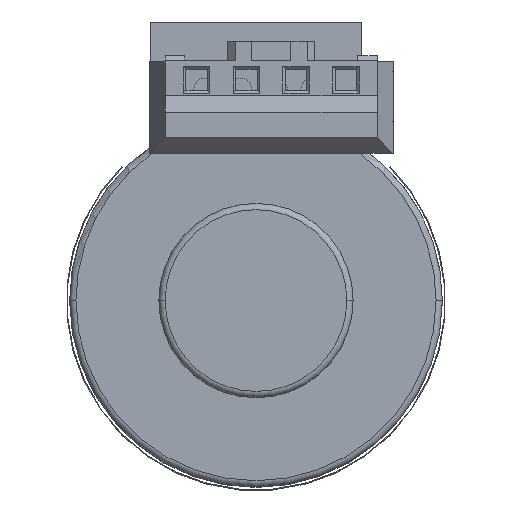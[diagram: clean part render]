
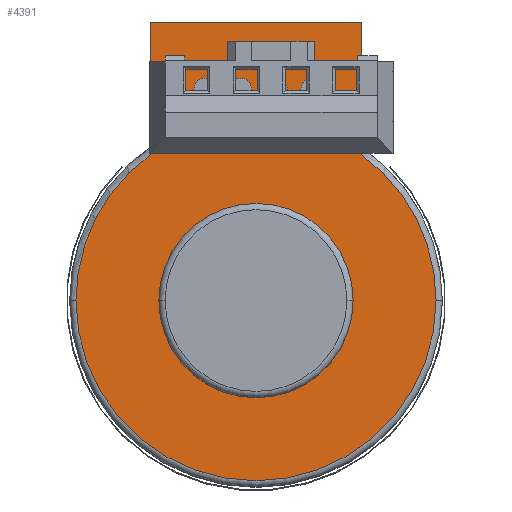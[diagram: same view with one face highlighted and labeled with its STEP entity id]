
A CAD part, top view. The second image highlights one B-rep face of the part: STEP entity #4391.
In plain terms, the highlighted planar face has unit normal (0, 0, 1).
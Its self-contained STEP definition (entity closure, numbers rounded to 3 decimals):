
#41 = CARTESIAN_POINT ( 'NONE',  ( -2.056, 8.438, 11. ) ) ;
#120 = DIRECTION ( 'NONE',  ( 1., 0., 0. ) ) ;
#213 = EDGE_CURVE ( 'NONE', #2931, #7906, #1782, .T. ) ;
#347 = VECTOR ( 'NONE', #120, 1000. ) ;
#384 = VERTEX_POINT ( 'NONE', #7729 ) ;
#397 = EDGE_CURVE ( 'NONE', #7710, #2724, #2043, .T. ) ;
#454 = EDGE_CURVE ( 'NONE', #5559, #2868, #7116, .T. ) ;
#523 = FACE_BOUND ( 'NONE', #995, .T. ) ;
#625 = CIRCLE ( 'NONE', #1020, 7.246 ) ;
#640 = CARTESIAN_POINT ( 'NONE',  ( -4.26, 5.862, 11. ) ) ;
#644 = FACE_BOUND ( 'NONE', #5646, .T. ) ;
#672 = DIRECTION ( 'NONE',  ( 0., 1., 0. ) ) ;
#683 = AXIS2_PLACEMENT_3D ( 'NONE', #6950, #2433, #8229 ) ;
#769 = EDGE_CURVE ( 'NONE', #4535, #384, #7121, .T. ) ;
#850 = CIRCLE ( 'NONE', #5393, 0.445 ) ;
#881 = DIRECTION ( 'NONE',  ( 1., 0., 0. ) ) ;
#966 = DIRECTION ( 'NONE',  ( 0., 0., 1. ) ) ;
#995 = EDGE_LOOP ( 'NONE', ( #2473, #3205 ) ) ;
#1020 = AXIS2_PLACEMENT_3D ( 'NONE', #6816, #7437, #4119 ) ;
#1030 = ORIENTED_EDGE ( 'NONE', *, *, #4253, .F. ) ;
#1062 = FACE_BOUND ( 'NONE', #2741, .T. ) ;
#1121 = AXIS2_PLACEMENT_3D ( 'NONE', #4924, #7476, #5681 ) ;
#1138 = EDGE_CURVE ( 'NONE', #384, #4535, #850, .T. ) ;
#1157 = CARTESIAN_POINT ( 'NONE',  ( 2.249, 8.438, 11. ) ) ;
#1162 = EDGE_LOOP ( 'NONE', ( #7963, #8015, #5160, #4407, #7819, #8256 ) ) ;
#1233 = FACE_OUTER_BOUND ( 'NONE', #1162, .T. ) ;
#1291 = EDGE_CURVE ( 'NONE', #6718, #6763, #1929, .T. ) ;
#1368 = VERTEX_POINT ( 'NONE', #5244 ) ;
#1395 = CARTESIAN_POINT ( 'NONE',  ( 0., 0., 11. ) ) ;
#1513 = AXIS2_PLACEMENT_3D ( 'NONE', #2302, #5988, #1644 ) ;
#1530 = ORIENTED_EDGE ( 'NONE', *, *, #769, .F. ) ;
#1594 = CARTESIAN_POINT ( 'NONE',  ( -0.621, 8.438, 11. ) ) ;
#1644 = DIRECTION ( 'NONE',  ( 1., 0., 0. ) ) ;
#1651 = EDGE_CURVE ( 'NONE', #2868, #5559, #3260, .T. ) ;
#1685 = DIRECTION ( 'NONE',  ( 0., 1., 0. ) ) ;
#1782 = CIRCLE ( 'NONE', #1513, 3.91 ) ;
#1804 = AXIS2_PLACEMENT_3D ( 'NONE', #3933, #6500, #5039 ) ;
#1929 = CIRCLE ( 'NONE', #1804, 0.445 ) ;
#1943 = VERTEX_POINT ( 'NONE', #3328 ) ;
#1951 = ORIENTED_EDGE ( 'NONE', *, *, #5765, .F. ) ;
#1965 = DIRECTION ( 'NONE',  ( 1., 0., 0. ) ) ;
#2041 = LINE ( 'NONE', #3292, #347 ) ;
#2043 = LINE ( 'NONE', #7109, #2307 ) ;
#2129 = CARTESIAN_POINT ( 'NONE',  ( -4.26, 11.211, 11. ) ) ;
#2211 = AXIS2_PLACEMENT_3D ( 'NONE', #1395, #3261, #881 ) ;
#2302 = CARTESIAN_POINT ( 'NONE',  ( 0., 0., 11. ) ) ;
#2307 = VECTOR ( 'NONE', #672, 1000. ) ;
#2433 = DIRECTION ( 'NONE',  ( 0., 0., 1. ) ) ;
#2473 = ORIENTED_EDGE ( 'NONE', *, *, #1291, .F. ) ;
#2552 = PLANE ( 'NONE',  #683 ) ;
#2584 = DIRECTION ( 'NONE',  ( 0., 0., 1. ) ) ;
#2672 = AXIS2_PLACEMENT_3D ( 'NONE', #5319, #7283, #3431 ) ;
#2724 = VERTEX_POINT ( 'NONE', #3094 ) ;
#2741 = EDGE_LOOP ( 'NONE', ( #1530, #4355 ) ) ;
#2763 = CIRCLE ( 'NONE', #4235, 0.445 ) ;
#2868 = VERTEX_POINT ( 'NONE', #4644 ) ;
#2874 = AXIS2_PLACEMENT_3D ( 'NONE', #7482, #4298, #6064 ) ;
#2886 = EDGE_CURVE ( 'NONE', #3530, #7710, #6164, .T. ) ;
#2931 = VERTEX_POINT ( 'NONE', #4771 ) ;
#3069 = CIRCLE ( 'NONE', #7091, 0.445 ) ;
#3094 = CARTESIAN_POINT ( 'NONE',  ( 4.249, 11.211, 11. ) ) ;
#3205 = ORIENTED_EDGE ( 'NONE', *, *, #4106, .F. ) ;
#3260 = CIRCLE ( 'NONE', #5933, 0.445 ) ;
#3261 = DIRECTION ( 'NONE',  ( 0., 0., 1. ) ) ;
#3281 = CIRCLE ( 'NONE', #2874, 3.91 ) ;
#3292 = CARTESIAN_POINT ( 'NONE',  ( -4.26, 11.211, 11. ) ) ;
#3326 = CARTESIAN_POINT ( 'NONE',  ( -7.246, 0., 11. ) ) ;
#3328 = CARTESIAN_POINT ( 'NONE',  ( -0.176, 8.438, 11. ) ) ;
#3421 = CARTESIAN_POINT ( 'NONE',  ( 7.246, 0., 11. ) ) ;
#3431 = DIRECTION ( 'NONE',  ( 1., 0., 0. ) ) ;
#3530 = VERTEX_POINT ( 'NONE', #3421 ) ;
#3639 = FACE_BOUND ( 'NONE', #5351, .T. ) ;
#3658 = ORIENTED_EDGE ( 'NONE', *, *, #213, .F. ) ;
#3833 = VERTEX_POINT ( 'NONE', #3326 ) ;
#3896 = DIRECTION ( 'NONE',  ( 1., 0., 0. ) ) ;
#3918 = CARTESIAN_POINT ( 'NONE',  ( -2.056, 8.438, 11. ) ) ;
#3933 = CARTESIAN_POINT ( 'NONE',  ( 2.249, 8.438, 11. ) ) ;
#3972 = DIRECTION ( 'NONE',  ( 0., 0., 1. ) ) ;
#4106 = EDGE_CURVE ( 'NONE', #6763, #6718, #7361, .T. ) ;
#4119 = DIRECTION ( 'NONE',  ( 1., 0., 0. ) ) ;
#4127 = DIRECTION ( 'NONE',  ( 1., 0., 0. ) ) ;
#4235 = AXIS2_PLACEMENT_3D ( 'NONE', #1594, #966, #4127 ) ;
#4253 = EDGE_CURVE ( 'NONE', #1368, #1943, #3069, .T. ) ;
#4298 = DIRECTION ( 'NONE',  ( 0., 0., 1. ) ) ;
#4355 = ORIENTED_EDGE ( 'NONE', *, *, #1138, .F. ) ;
#4391 = ADVANCED_FACE ( 'NONE', ( #1062, #644, #3639, #523, #6325, #1233 ), #2552, .T. ) ;
#4407 = ORIENTED_EDGE ( 'NONE', *, *, #2886, .T. ) ;
#4444 = DIRECTION ( 'NONE',  ( 0., 0., 1. ) ) ;
#4535 = VERTEX_POINT ( 'NONE', #5238 ) ;
#4644 = CARTESIAN_POINT ( 'NONE',  ( -2.5, 8.438, 11. ) ) ;
#4771 = CARTESIAN_POINT ( 'NONE',  ( 3.91, 0., 11. ) ) ;
#4892 = CARTESIAN_POINT ( 'NONE',  ( -4.26, -500000., 11. ) ) ;
#4924 = CARTESIAN_POINT ( 'NONE',  ( 0.814, 8.438, 11. ) ) ;
#4954 = DIRECTION ( 'NONE',  ( 0., 0., 1. ) ) ;
#5039 = DIRECTION ( 'NONE',  ( 1., 0., 0. ) ) ;
#5111 = CARTESIAN_POINT ( 'NONE',  ( -3.91, 0., 11. ) ) ;
#5119 = CARTESIAN_POINT ( 'NONE',  ( 1.805, 8.438, 11. ) ) ;
#5160 = ORIENTED_EDGE ( 'NONE', *, *, #6065, .T. ) ;
#5174 = VERTEX_POINT ( 'NONE', #2129 ) ;
#5183 = ORIENTED_EDGE ( 'NONE', *, *, #1651, .F. ) ;
#5210 = CARTESIAN_POINT ( 'NONE',  ( 4.249, 5.869, 11. ) ) ;
#5213 = EDGE_LOOP ( 'NONE', ( #1951, #3658 ) ) ;
#5238 = CARTESIAN_POINT ( 'NONE',  ( 0.37, 8.438, 11. ) ) ;
#5244 = CARTESIAN_POINT ( 'NONE',  ( -1.065, 8.438, 11. ) ) ;
#5319 = CARTESIAN_POINT ( 'NONE',  ( 0., 0., 11. ) ) ;
#5351 = EDGE_LOOP ( 'NONE', ( #1030, #8247 ) ) ;
#5393 = AXIS2_PLACEMENT_3D ( 'NONE', #5592, #4954, #8113 ) ;
#5559 = VERTEX_POINT ( 'NONE', #5986 ) ;
#5592 = CARTESIAN_POINT ( 'NONE',  ( 0.814, 8.438, 11. ) ) ;
#5646 = EDGE_LOOP ( 'NONE', ( #5183, #7682 ) ) ;
#5681 = DIRECTION ( 'NONE',  ( 1., 0., 0. ) ) ;
#5709 = EDGE_CURVE ( 'NONE', #7001, #5174, #8058, .T. ) ;
#5765 = EDGE_CURVE ( 'NONE', #7906, #2931, #3281, .T. ) ;
#5909 = CARTESIAN_POINT ( 'NONE',  ( 2.694, 8.438, 11. ) ) ;
#5933 = AXIS2_PLACEMENT_3D ( 'NONE', #41, #2584, #1965 ) ;
#5986 = CARTESIAN_POINT ( 'NONE',  ( -1.611, 8.438, 11. ) ) ;
#5988 = DIRECTION ( 'NONE',  ( 0., 0., 1. ) ) ;
#6017 = EDGE_CURVE ( 'NONE', #5174, #2724, #2041, .T. ) ;
#6064 = DIRECTION ( 'NONE',  ( 1., 0., 0. ) ) ;
#6065 = EDGE_CURVE ( 'NONE', #3833, #3530, #625, .T. ) ;
#6164 = CIRCLE ( 'NONE', #2672, 7.246 ) ;
#6325 = FACE_BOUND ( 'NONE', #5213, .T. ) ;
#6482 = DIRECTION ( 'NONE',  ( 0., 0., 1. ) ) ;
#6500 = DIRECTION ( 'NONE',  ( 0., 0., 1. ) ) ;
#6718 = VERTEX_POINT ( 'NONE', #5119 ) ;
#6763 = VERTEX_POINT ( 'NONE', #5909 ) ;
#6816 = CARTESIAN_POINT ( 'NONE',  ( 0., 0., 11. ) ) ;
#6950 = CARTESIAN_POINT ( 'NONE',  ( 7.5, 0., 11. ) ) ;
#7001 = VERTEX_POINT ( 'NONE', #640 ) ;
#7070 = DIRECTION ( 'NONE',  ( 1., 0., 0. ) ) ;
#7091 = AXIS2_PLACEMENT_3D ( 'NONE', #7744, #3972, #3896 ) ;
#7109 = CARTESIAN_POINT ( 'NONE',  ( 4.249, -500000., 11. ) ) ;
#7116 = CIRCLE ( 'NONE', #8162, 0.445 ) ;
#7121 = CIRCLE ( 'NONE', #1121, 0.445 ) ;
#7201 = EDGE_CURVE ( 'NONE', #1943, #1368, #2763, .T. ) ;
#7283 = DIRECTION ( 'NONE',  ( 0., 0., 1. ) ) ;
#7361 = CIRCLE ( 'NONE', #7752, 0.445 ) ;
#7437 = DIRECTION ( 'NONE',  ( 0., 0., 1. ) ) ;
#7476 = DIRECTION ( 'NONE',  ( 0., 0., 1. ) ) ;
#7482 = CARTESIAN_POINT ( 'NONE',  ( 0., 0., 11. ) ) ;
#7682 = ORIENTED_EDGE ( 'NONE', *, *, #454, .F. ) ;
#7710 = VERTEX_POINT ( 'NONE', #5210 ) ;
#7729 = CARTESIAN_POINT ( 'NONE',  ( 1.259, 8.438, 11. ) ) ;
#7744 = CARTESIAN_POINT ( 'NONE',  ( -0.621, 8.438, 11. ) ) ;
#7752 = AXIS2_PLACEMENT_3D ( 'NONE', #1157, #4444, #8156 ) ;
#7814 = VECTOR ( 'NONE', #1685, 1000. ) ;
#7819 = ORIENTED_EDGE ( 'NONE', *, *, #397, .T. ) ;
#7906 = VERTEX_POINT ( 'NONE', #5111 ) ;
#7963 = ORIENTED_EDGE ( 'NONE', *, *, #5709, .F. ) ;
#8015 = ORIENTED_EDGE ( 'NONE', *, *, #8078, .T. ) ;
#8058 = LINE ( 'NONE', #4892, #7814 ) ;
#8068 = CIRCLE ( 'NONE', #2211, 7.246 ) ;
#8078 = EDGE_CURVE ( 'NONE', #7001, #3833, #8068, .T. ) ;
#8113 = DIRECTION ( 'NONE',  ( 1., 0., 0. ) ) ;
#8156 = DIRECTION ( 'NONE',  ( 1., 0., 0. ) ) ;
#8162 = AXIS2_PLACEMENT_3D ( 'NONE', #3918, #6482, #7070 ) ;
#8229 = DIRECTION ( 'NONE',  ( 1., 0., 0. ) ) ;
#8247 = ORIENTED_EDGE ( 'NONE', *, *, #7201, .F. ) ;
#8256 = ORIENTED_EDGE ( 'NONE', *, *, #6017, .F. ) ;
